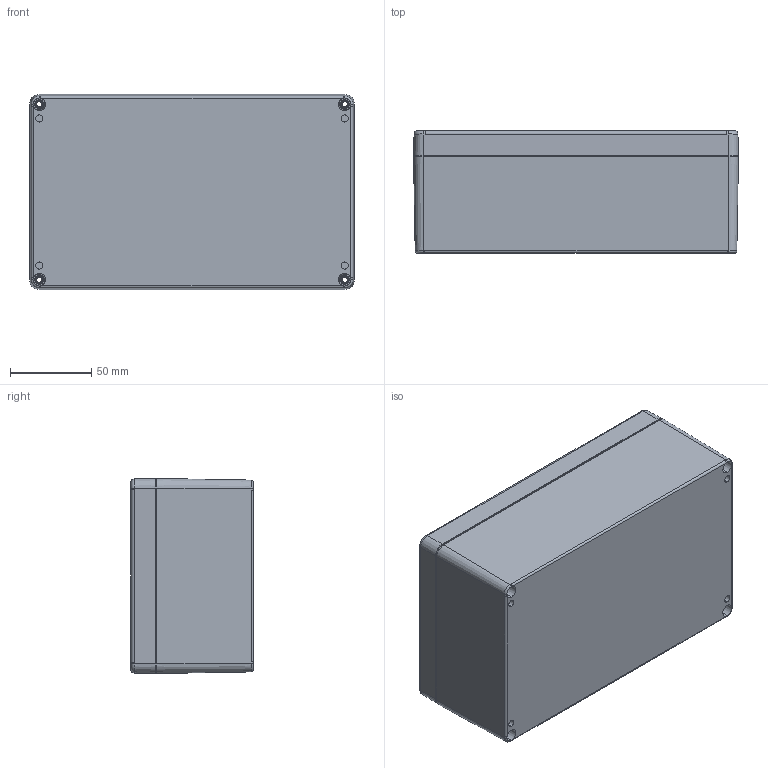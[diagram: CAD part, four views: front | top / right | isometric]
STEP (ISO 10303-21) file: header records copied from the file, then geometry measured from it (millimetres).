
FILE_DESCRIPTION (( 'STEP AP203' ), '1' );
FILE_NAME ('PE240.STEP', '2020-01-02T06:42:23', ( '' ), ( '' ), 'SwSTEP 2.0', 'SolidWorks 2020', '' );
FILE_SCHEMA (( 'CONFIG_CONTROL_DESIGN' ));
Length unit declared in the file: millimetre
Products named in the file (4): PE240
Assembly tree (3 placements, depth 2):
  PE240
    PE240
    PE240
    PE240
Bounding box: 199.97 x 75.1 x 120.07 mm (x, y, z)
Volume: 356245.9 mm3; surface area: 247416.2 mm2
Topology: 11 solids, 11 shells, 1378 faces, 3652 edges, 2350 vertices
Faces by surface type: bspline 464, cylinder 356, plane 294, cone 264
Entity records: 48514 total; most frequent: CARTESIAN_POINT 16492, ORIENTED_EDGE 7268, DIRECTION 5768, EDGE_CURVE 3634, VERTEX_POINT 2350, AXIS2_PLACEMENT_3D 2142, EDGE_LOOP 1514, VECTOR 1484
